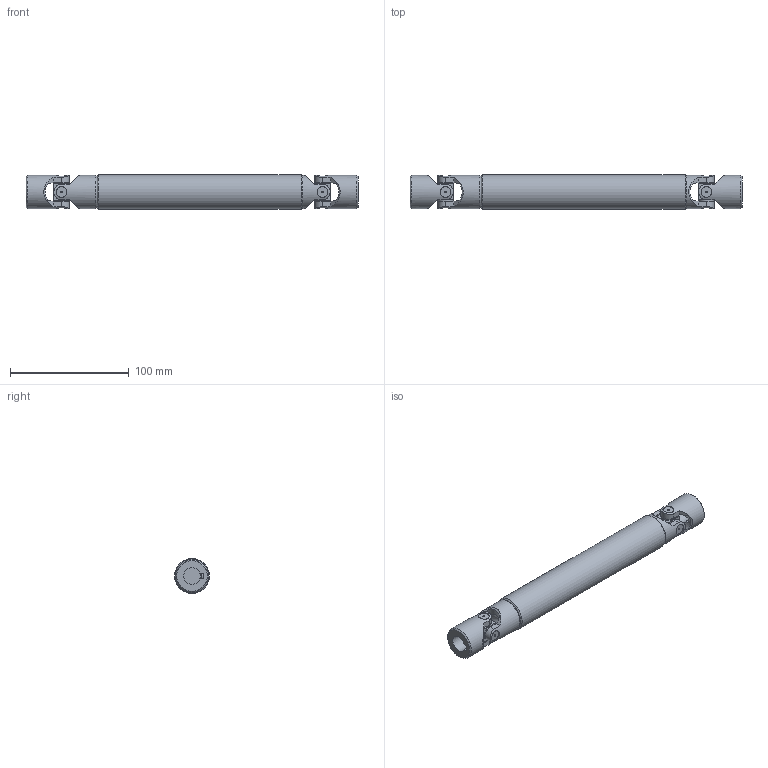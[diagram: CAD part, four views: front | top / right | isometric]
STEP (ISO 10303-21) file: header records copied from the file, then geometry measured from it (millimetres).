
FILE_DESCRIPTION(/* description */ ('EXTENSIBLE TRANSIMISSIONS Series G DIN 808 -2-'),/* implementation_level */ '2;1');
FILE_NAME(/* name */ '\\SRV2016\Societa\Stefano\Disegni 3D\00Catalogo 3D\03Trasmissioni standard GA\!05GA26\!05GA26_SG0A1426.stp',/* time_stamp */ '2022-02-01T08:44:58+01:00',/* author */ ('acquisti'),/* organization */ ('MARIOFERRI'),/* preprocessor_version */ 'ST-DEVELOPER v15.6',/* originating_system */ 'Autodesk Inventor 2015',/* authorisation */ '');
FILE_SCHEMA (('AUTOMOTIVE_DESIGN { 1 0 10303 214 3 1 1 }'));
Length unit declared in the file: millimetre
Products named in the file (5): 05G SFE; !05GA26 LAI; !05GA26 LCI; 05G MOC; !05GA26_SG0A1426
Assembly tree (6 placements, depth 2):
  !05GA26_SG0A1426
    05G SFE  x2
    !05GA26 LAI
    !05GA26 LCI
    05G MOC  x2
Bounding box: 280 x 29.5 x 29.5 mm (x, y, z)
Volume: 125345.8 mm3; surface area: 56463.5 mm2
Topology: 6 solids, 6 shells, 204 faces, 515 edges, 347 vertices
Faces by surface type: plane 106, cylinder 69, cone 25, torus 4
Full cylindrical faces by diameter (mm): 1.5 x8, 9 x8, 12.5 x8, 14 x1, 14.5 x2, 24 x1, 28 x4, 29.5 x1
Entity records: 5255 total; most frequent: CARTESIAN_POINT 1529, DIRECTION 751, ORIENTED_EDGE 724, EDGE_CURVE 362, AXIS2_PLACEMENT_3D 299, VERTEX_POINT 262, EDGE_LOOP 212, FACE_OUTER_BOUND 158
